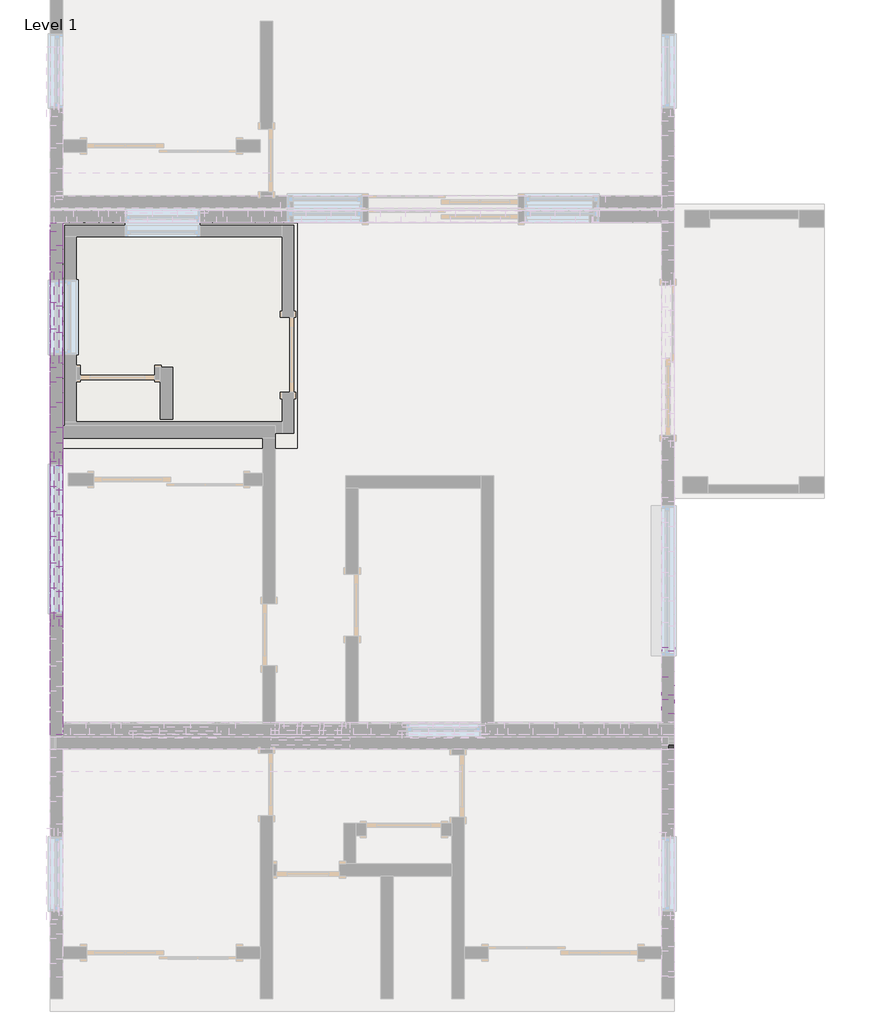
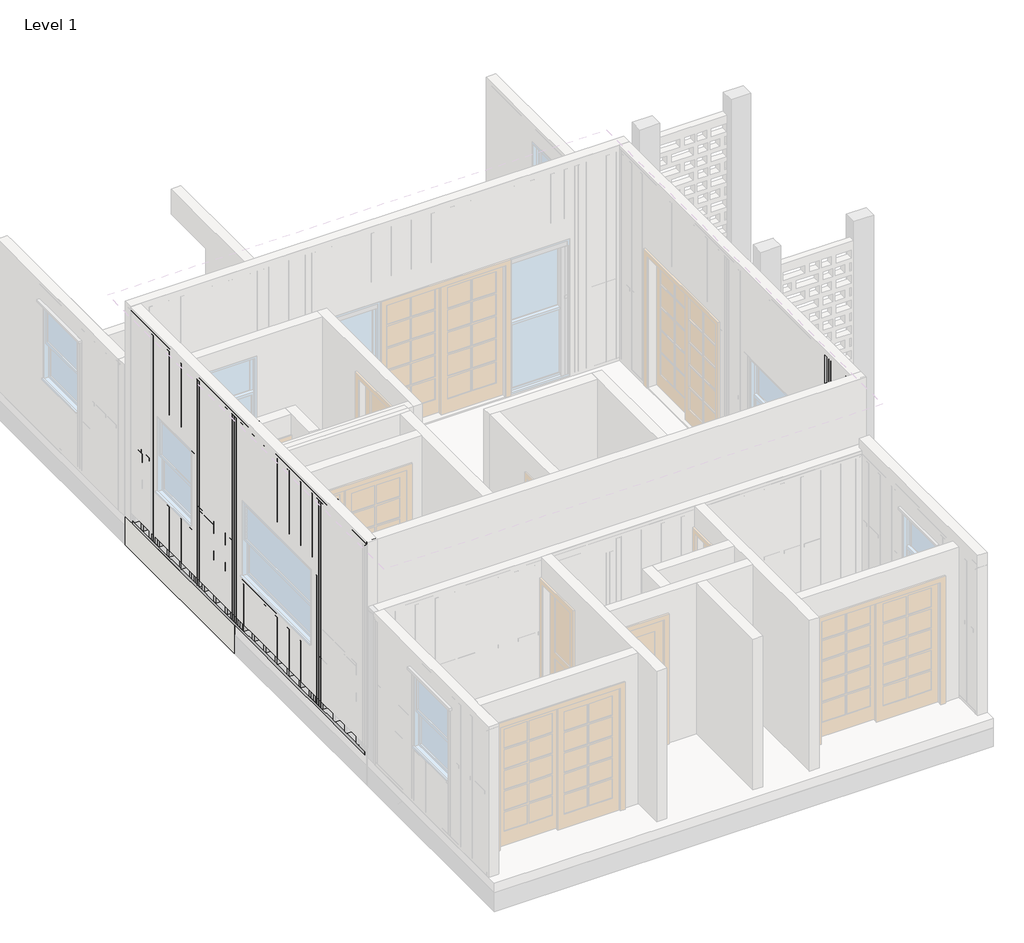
# One storey, part 7 of 12: 102 beams, 1 slab.
"""IFC4 building model written with IfcOpenShell, lengths in millimetres."""

from ifc_helpers import new_model, si_unit, frame, origin, origin_with_axes, place, context, project, spatial, polyline, outline, extrude, faceted_brep, transform, mapped, element, save
from components import beam_239daab2, beam_f281b755, beam_aa3e2137, beam_2eff0062, beam_94f9b516, beam_c16debae, beam_a6087a68, beam_9201261a, beam_f7cc44c7, beam_b7962ac8, beam_15472744, beam_b2f74068, beam_61d3dc7b, beam_e041d9c6, beam_07a85b6c, beam_0c8f00b2, beam_fbb855dd, beam_4a104cc5, beam_99146412, beam_57e885f1, beam_8e30b7c7, beam_f3d449ce, beam_9d6aa0d6, beam_a4d90c35, beam_cc9ad65c, beam_51b55d0f, beam_9a5d82eb, beam_c7850aeb, beam_50f049cc, beam_d29d678d, beam_b4771957, beam_a4c1aa83, beam_a83041ab, beam_e5826ba7, beam_6518eab1

model = new_model("IFC4")

# Units and contexts
model_context = context("Model", 3, world=origin())
ifc_project = project(units=[si_unit("LENGTHUNIT", "METRE", prefix="MILLI")], contexts=[model_context])

# Site, building, storey
site = spatial("IfcSite", under=ifc_project)
building = spatial("IfcBuilding", under=site)
storey = spatial("IfcBuildingStorey", under=building, Name="Level 1", Elevation=0.0)

# Beams
placement = place(None, origin())
element("IfcBeam", 1, ObjectType="Rectangular(Timber)-Beam : Timber_0' - 1 31/32\" x0' - 5 29/32\" _ContentGenerator", at=placement, inside=storey, context=model_context, shape_type="SweptSolid", body=[
    extrude(outline(polyline([(-25008.3813369, 3429.0), (-24957.5813369, 3378.2), (-24957.5813369, 0.0), (-25008.3813369, 0.0), (-25008.3813369, 3429.0)])), frame((-4062.0790766, 0.0, 0.0), z_axis=(1.0, 0.0, 0.0), x_axis=(0.0, 1.0, 0.0)), (0.0, 0.0, 1.0), 152.4),
])
element("IfcBeam", 2, ObjectType="Rectangular(Timber)-Beam : Timber_0' - 1 31/32\" x0' - 5 29/32\" _ContentGenerator", at=placement, inside=storey, context=model_context, shape_type="SweptSolid", body=[
    extrude(outline(polyline([(3431.656975, -3909.6740766), (3380.856975, -3960.4740766), (0.0, -3960.4740766), (0.0, -3909.6740766), (3431.656975, -3909.6740766)])), frame((0.0, -25160.7763369, 0.0), z_axis=(0.0, 1.0, 0.0), x_axis=(0.0, 0.0, 1.0)), (0.0, 0.0, 1.0), 152.4),
])
element("IfcBeam", 3, ObjectType="Rectangular(Timber)-Beam : Timber_0' - 1 31/32\" x0' - 5 29/32\" _ContentGenerator", at=placement, inside=storey, context=model_context, shape_type="SweptSolid", body=[
    extrude(outline(polyline([(-11529.6790766, -18963.1863369), (-11377.2790766, -18963.1863369), (-11377.2790766, -25109.9813369), (-11529.6790766, -25109.9813369), (-11529.6790766, -18963.1863369)])), origin_with_axes(), (0.0, 0.0, 1.0), 50.8),
])
element("IfcBeam", 4, ObjectType="Rectangular(Timber)-Beam : Timber_0' - 1 31/32\" x0' - 5 29/32\" _ContentGenerator", at=placement, inside=storey, context=model_context, shape_type="SweptSolid", body=[
    extrude(outline(polyline([(-25109.9813369, 3378.2), (-25160.7813369, 3429.0), (-18912.3863369, 3429.0), (-18963.1863369, 3378.2), (-25109.9813369, 3378.2)])), frame((-11529.6790766, 0.0, 0.0), z_axis=(1.0, 0.0, 0.0), x_axis=(0.0, 1.0, 0.0)), (0.0, 0.0, 1.0), 152.4),
])
beam_shape = beam_239daab2(model_context)
element("IfcBeam", 5, ObjectType="Rectangular(Timber)-Beam : Timber_0' - 1 31/32\" x0' - 5 29/32\" _ContentGenerator", at=placement, inside=storey, context=model_context, shape_type="MappedRepresentation", body=[
    mapped(beam_shape, transform((-3985.8790766, -24540.8509408, 1314.45), x_axis=(0.0, -1.0000000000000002, 0.0), y_axis=(0.0, 0.0, -1.0000000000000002), z_axis=(1.0000000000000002, 0.0, 0.0))),
])
beam_2_shape = beam_f281b755(model_context)
element("IfcBeam", 6, ObjectType="Rectangular(Timber)-Beam : Timber_0' - 1 31/32\" x0' - 5 29/32\" _ContentGenerator", at=placement, inside=storey, context=model_context, shape_type="MappedRepresentation", body=[
    mapped(beam_2_shape, transform((-11453.4790766, -21534.9313369, 1314.45), x_axis=(0.0, -1.0000000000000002, 0.0), y_axis=(0.0, 0.0, -1.0000000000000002), z_axis=(1.0000000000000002, 0.0, 0.0))),
])
beam_3_shape = beam_aa3e2137(model_context)
element("IfcBeam", 7, ObjectType="Rectangular(Timber)-Beam : Timber_0' - 1 31/32\" x0' - 5 29/32\" _ContentGenerator", at=placement, inside=storey, context=model_context, shape_type="MappedRepresentation", body=[
    mapped(beam_3_shape, transform((-11453.4790766, -20728.4863369, 1314.45), x_axis=(0.0, -1.0000000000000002, 0.0), y_axis=(0.0, 0.0, -1.0000000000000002), z_axis=(1.0000000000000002, 0.0, 0.0))),
])
beam_4_shape = beam_2eff0062(model_context)
element("IfcBeam", 8, ObjectType="Rectangular(Timber)-Beam : Timber_0' - 1 31/32\" x0' - 5 29/32\" _ContentGenerator", at=placement, inside=storey, context=model_context, shape_type="MappedRepresentation", body=[
    mapped(beam_4_shape, transform((-11453.4790766, -19325.1413369, 1314.45), x_axis=(0.0, -1.0000000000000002, 0.0), y_axis=(0.0, 0.0, -1.0000000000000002), z_axis=(1.0000000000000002, 0.0, 0.0))),
])
beam_5_shape = beam_94f9b516(model_context)
element("IfcBeam", 9, ObjectType="Rectangular(Timber)-Beam : Timber_0' - 1 31/32\" x0' - 5 29/32\" _ContentGenerator", at=placement, inside=storey, context=model_context, shape_type="MappedRepresentation", body=[
    mapped(beam_5_shape, transform((-11453.4790766, -21884.1863369, 431.8), x_axis=(0.0, 0.0, 1.0), y_axis=(0.0, -1.0, 0.0), z_axis=(1.0, 0.0, 0.0))),
])
element("IfcBeam", 10, ObjectType="Rectangular(Timber)-Beam : Timber_0' - 1 31/32\" x0' - 5 29/32\" _ContentGenerator", at=placement, inside=storey, context=model_context, shape_type="MappedRepresentation", body=[
    mapped(beam_5_shape, transform((-11453.4790766, -23662.1863369, 431.8), x_axis=(0.0, 0.0, 1.0), y_axis=(0.0, -1.0, 0.0), z_axis=(1.0, 0.0, 0.0))),
])
element("IfcBeam", 11, ObjectType="Rectangular(Timber)-Beam : Timber_0' - 1 31/32\" x0' - 5 29/32\" _ContentGenerator", at=placement, inside=storey, context=model_context, shape_type="MappedRepresentation", body=[
    mapped(beam_5_shape, transform((-11453.4790766, -22459.9096702, 431.8), x_axis=(0.0, 0.0, 1.0), y_axis=(0.0, -1.0, 0.0), z_axis=(1.0, 0.0, 0.0))),
])
element("IfcBeam", 12, ObjectType="Rectangular(Timber)-Beam : Timber_0' - 1 31/32\" x0' - 5 29/32\" _ContentGenerator", at=placement, inside=storey, context=model_context, shape_type="MappedRepresentation", body=[
    mapped(beam_5_shape, transform((-11453.4790766, -23086.4430036, 431.8), x_axis=(0.0, 0.0, 1.0), y_axis=(0.0, -1.0, 0.0), z_axis=(1.0, 0.0, 0.0))),
])
element("IfcBeam", 13, ObjectType="Rectangular(Timber)-Beam : Timber_0' - 1 31/32\" x0' - 5 29/32\" _ContentGenerator", at=placement, inside=storey, context=model_context, shape_type="MappedRepresentation", body=[
    mapped(beam_5_shape, transform((-11453.4790766, -22764.7096702, 431.8), x_axis=(0.0, 0.0, 1.0), y_axis=(0.0, -1.0, 0.0), z_axis=(1.0, 0.0, 0.0))),
])
element("IfcBeam", 14, ObjectType="Rectangular(Timber)-Beam : Timber_0' - 1 31/32\" x0' - 5 29/32\" _ContentGenerator", at=placement, inside=storey, context=model_context, shape_type="MappedRepresentation", body=[
    mapped(beam_5_shape, transform((-11453.4790766, -23391.2430036, 431.8), x_axis=(0.0, 0.0, 1.0), y_axis=(0.0, -1.0, 0.0), z_axis=(1.0, 0.0, 0.0))),
])
element("IfcBeam", 15, ObjectType="Rectangular(Timber)-Beam : Timber_0' - 1 31/32\" x0' - 5 29/32\" _ContentGenerator", at=placement, inside=storey, context=model_context, shape_type="MappedRepresentation", body=[
    mapped(beam_5_shape, transform((-11453.4790766, -22155.1096702, 431.8), x_axis=(0.0, 0.0, 1.0), y_axis=(0.0, -1.0, 0.0), z_axis=(1.0, 0.0, 0.0))),
])
element("IfcBeam", 16, ObjectType="Rectangular(Timber)-Beam : Timber_0' - 1 31/32\" x0' - 5 29/32\" _ContentGenerator", at=placement, inside=storey, context=model_context, shape_type="MappedRepresentation", body=[
    mapped(beam_5_shape, transform((-3996.4417141, -24170.1078952, 431.8), x_axis=(0.0, 0.0, 1.0), y_axis=(0.0, -1.0, 0.0), z_axis=(1.0, 0.0, 0.0))),
])
beam_6_shape = beam_c16debae(model_context)
element("IfcBeam", 17, ObjectType="Rectangular(Timber)-Beam : Timber_0' - 1 31/32\" x0' - 5 29/32\" _ContentGenerator", at=placement, inside=storey, context=model_context, shape_type="MappedRepresentation", body=[
    mapped(beam_6_shape, transform((-11453.4790766, -20068.0763369, 889.0), x_axis=(0.0, -1.0000000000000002, 0.0), y_axis=(0.0, 0.0, -1.0000000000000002), z_axis=(1.0000000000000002, 0.0, 0.0))),
])
beam_7_shape = beam_a6087a68(model_context)
element("IfcBeam", 18, ObjectType="Rectangular(Timber)-Beam : Timber_0' - 1 31/32\" x0' - 5 29/32\" _ContentGenerator", at=placement, inside=storey, context=model_context, shape_type="MappedRepresentation", body=[
    mapped(beam_7_shape, transform((-11453.4790766, -20982.4763369, 1314.45), x_axis=(0.0, -1.0000000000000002, 0.0), y_axis=(0.0, 0.0, -1.0000000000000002), z_axis=(1.0000000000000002, 0.0, 0.0))),
])
element("IfcBeam", 19, ObjectType="Rectangular(Timber)-Beam : Timber_0' - 1 31/32\" x0' - 5 29/32\" _ContentGenerator", at=placement, inside=storey, context=model_context, shape_type="MappedRepresentation", body=[
    mapped(beam_7_shape, transform((-11453.4790766, -21287.2763369, 1314.45), x_axis=(0.0, -1.0000000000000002, 0.0), y_axis=(0.0, 0.0, -1.0000000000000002), z_axis=(1.0000000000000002, 0.0, 0.0))),
])
beam_8_shape = beam_9201261a(model_context)
element("IfcBeam", 20, ObjectType="Rectangular(Timber)-Beam : Timber_0' - 1 31/32\" x0' - 5 29/32\" _ContentGenerator", at=placement, inside=storey, context=model_context, shape_type="MappedRepresentation", body=[
    mapped(beam_8_shape, transform((-3985.8790766, -24817.8813369, 1314.45), x_axis=(0.0, -1.0000000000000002, 0.0), y_axis=(0.0, 0.0, -1.0000000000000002), z_axis=(1.0000000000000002, 0.0, 0.0))),
])
beam_9_shape = beam_f7cc44c7(model_context)
element("IfcBeam", 21, ObjectType="Rectangular(Timber)-Beam : Timber_0' - 1 31/32\" x0' - 5 29/32\" _ContentGenerator", at=placement, inside=storey, context=model_context, shape_type="MappedRepresentation", body=[
    mapped(beam_9_shape, transform((-11453.4790766, -22773.1763369, 889.0), x_axis=(0.0, -1.0000000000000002, 0.0), y_axis=(0.0, 0.0, -1.0000000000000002), z_axis=(1.0000000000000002, 0.0, 0.0))),
])
element("IfcBeam", 22, ObjectType="Rectangular(Timber)-Beam : Timber_0' - 1 31/32\" x0' - 5 29/32\" _ContentGenerator", at=placement, inside=storey, context=model_context, shape_type="MappedRepresentation", body=[
    mapped(beam_9_shape, transform((-11453.4790766, -22773.1763369, 838.2), x_axis=(0.0, -1.0000000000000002, 0.0), y_axis=(0.0, 0.0, -1.0000000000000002), z_axis=(1.0000000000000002, 0.0, 0.0))),
])
beam_10_shape = beam_b7962ac8(model_context)
element("IfcBeam", 23, ObjectType="Rectangular(Timber)-Beam : Timber_0' - 1 31/32\" x0' - 5 29/32\" _ContentGenerator", at=placement, inside=storey, context=model_context, shape_type="MappedRepresentation", body=[
    mapped(beam_10_shape, transform((-11453.4790766, -19636.2863369, 457.2), x_axis=(0.0, 0.0, 1.0), y_axis=(0.0, -1.0, 0.0), z_axis=(1.0, 0.0, 0.0))),
])
element("IfcBeam", 24, ObjectType="Rectangular(Timber)-Beam : Timber_0' - 1 31/32\" x0' - 5 29/32\" _ContentGenerator", at=placement, inside=storey, context=model_context, shape_type="MappedRepresentation", body=[
    mapped(beam_10_shape, transform((-11453.4790766, -20499.8863369, 457.2), x_axis=(0.0, 0.0, 1.0), y_axis=(0.0, -1.0, 0.0), z_axis=(1.0, 0.0, 0.0))),
])
element("IfcBeam", 25, ObjectType="Rectangular(Timber)-Beam : Timber_0' - 1 31/32\" x0' - 5 29/32\" _ContentGenerator", at=placement, inside=storey, context=model_context, shape_type="MappedRepresentation", body=[
    mapped(beam_10_shape, transform((-11453.4790766, -19907.2096702, 457.2), x_axis=(0.0, 0.0, 1.0), y_axis=(0.0, -1.0, 0.0), z_axis=(1.0, 0.0, 0.0))),
])
element("IfcBeam", 26, ObjectType="Rectangular(Timber)-Beam : Timber_0' - 1 31/32\" x0' - 5 29/32\" _ContentGenerator", at=placement, inside=storey, context=model_context, shape_type="MappedRepresentation", body=[
    mapped(beam_10_shape, transform((-11453.4790766, -20228.9430036, 457.2), x_axis=(0.0, 0.0, 1.0), y_axis=(0.0, -1.0, 0.0), z_axis=(1.0, 0.0, 0.0))),
])
beam_11_shape = beam_15472744(model_context)
element("IfcBeam", 27, ObjectType="Rectangular(Timber)-Beam : Timber_0' - 1 31/32\" x0' - 5 29/32\" _ContentGenerator", at=placement, inside=storey, context=model_context, shape_type="MappedRepresentation", body=[
    mapped(beam_11_shape, transform((-3985.8790766, -24932.1863369, 1715.8284875), x_axis=(0.0, 0.0, 1.0), y_axis=(0.0, -1.0, 0.0), z_axis=(1.0, 0.0, 0.0))),
])
element("IfcBeam", 28, ObjectType="Rectangular(Timber)-Beam : Timber_0' - 1 31/32\" x0' - 5 29/32\" _ContentGenerator", at=placement, inside=storey, context=model_context, shape_type="MappedRepresentation", body=[
    mapped(beam_11_shape, transform((-3985.8790766, -24703.5763369, 1715.8284875), x_axis=(0.0, 0.0, 1.0), y_axis=(0.0, -1.0, 0.0), z_axis=(1.0, 0.0, 0.0))),
])
element("IfcBeam", 29, ObjectType="Rectangular(Timber)-Beam : Timber_0' - 1 31/32\" x0' - 5 29/32\" _ContentGenerator", at=placement, inside=storey, context=model_context, shape_type="MappedRepresentation", body=[
    mapped(beam_11_shape, transform((-3985.8690766, -25084.5763369, 1715.8284875), x_axis=(0.0, 0.0, 1.0), y_axis=(1.0, 0.0, 0.0), z_axis=(0.0, 1.0, 0.0))),
])
element("IfcBeam", 30, ObjectType="Rectangular(Timber)-Beam : Timber_0' - 1 31/32\" x0' - 5 29/32\" _ContentGenerator", at=placement, inside=storey, context=model_context, shape_type="MappedRepresentation", body=[
    mapped(beam_11_shape, transform((-3986.6694134, -24375.71672, 1715.8284875), x_axis=(0.0, 0.0, 1.0), y_axis=(0.0, -1.0, 0.0), z_axis=(1.0, 0.0, 0.0))),
])
element("IfcBeam", 31, ObjectType="Rectangular(Timber)-Beam : Timber_0' - 1 31/32\" x0' - 5 29/32\" _ContentGenerator", at=placement, inside=storey, context=model_context, shape_type="MappedRepresentation", body=[
    mapped(beam_11_shape, transform((-3985.8790766, -24428.9255447, 1715.8284875), x_axis=(0.0, 0.0, 1.0), y_axis=(0.0, -1.0, 0.0), z_axis=(1.0, 0.0, 0.0))),
])
element("IfcBeam", 32, ObjectType="Rectangular(Timber)-Beam : Timber_0' - 1 31/32\" x0' - 5 29/32\" _ContentGenerator", at=placement, inside=storey, context=model_context, shape_type="MappedRepresentation", body=[
    mapped(beam_11_shape, transform((-3985.8790766, -24482.1343695, 1715.8284875), x_axis=(0.0, 0.0, 1.0), y_axis=(0.0, -1.0, 0.0), z_axis=(1.0, 0.0, 0.0))),
])
beam_12_shape = beam_b2f74068(model_context)
element("IfcBeam", 33, ObjectType="Rectangular(Timber)-Beam : Timber_0' - 1 31/32\" x0' - 5 29/32\" _ContentGenerator", at=placement, inside=storey, context=model_context, shape_type="MappedRepresentation", body=[
    mapped(beam_12_shape, transform((-11453.4790766, -19217.1763369, 1714.5), x_axis=(0.0, 0.0, 1.0), y_axis=(0.0, -1.0, 0.0), z_axis=(1.0, 0.0, 0.0))),
])
element("IfcBeam", 34, ObjectType="Rectangular(Timber)-Beam : Timber_0' - 1 31/32\" x0' - 5 29/32\" _ContentGenerator", at=placement, inside=storey, context=model_context, shape_type="MappedRepresentation", body=[
    mapped(beam_12_shape, transform((-11453.4790766, -20830.0763369, 1714.5), x_axis=(0.0, 0.0, 1.0), y_axis=(0.0, -1.0, 0.0), z_axis=(1.0, 0.0, 0.0))),
])
element("IfcBeam", 35, ObjectType="Rectangular(Timber)-Beam : Timber_0' - 1 31/32\" x0' - 5 29/32\" _ContentGenerator", at=placement, inside=storey, context=model_context, shape_type="MappedRepresentation", body=[
    mapped(beam_12_shape, transform((-11453.4790766, -21134.8763369, 1714.5), x_axis=(0.0, 0.0, 1.0), y_axis=(0.0, -1.0, 0.0), z_axis=(1.0, 0.0, 0.0))),
])
element("IfcBeam", 36, ObjectType="Rectangular(Timber)-Beam : Timber_0' - 1 31/32\" x0' - 5 29/32\" _ContentGenerator", at=placement, inside=storey, context=model_context, shape_type="MappedRepresentation", body=[
    mapped(beam_12_shape, transform((-11453.4790766, -21439.6763369, 1714.5), x_axis=(0.0, 0.0, 1.0), y_axis=(0.0, -1.0, 0.0), z_axis=(1.0, 0.0, 0.0))),
])
element("IfcBeam", 37, ObjectType="Rectangular(Timber)-Beam : Timber_0' - 1 31/32\" x0' - 5 29/32\" _ContentGenerator", at=placement, inside=storey, context=model_context, shape_type="MappedRepresentation", body=[
    mapped(beam_12_shape, transform((-11453.4790766, -23966.9863369, 1714.5), x_axis=(0.0, 0.0, 1.0), y_axis=(0.0, -1.0, 0.0), z_axis=(1.0, 0.0, 0.0))),
])
element("IfcBeam", 38, ObjectType="Rectangular(Timber)-Beam : Timber_0' - 1 31/32\" x0' - 5 29/32\" _ContentGenerator", at=placement, inside=storey, context=model_context, shape_type="MappedRepresentation", body=[
    mapped(beam_12_shape, transform((-11453.4790766, -19483.8863369, 1714.5), x_axis=(0.0, 0.0, 1.0), y_axis=(0.0, -1.0, 0.0), z_axis=(1.0, 0.0, 0.0))),
])
element("IfcBeam", 39, ObjectType="Rectangular(Timber)-Beam : Timber_0' - 1 31/32\" x0' - 5 29/32\" _ContentGenerator", at=placement, inside=storey, context=model_context, shape_type="MappedRepresentation", body=[
    mapped(beam_12_shape, transform((-11453.4790766, -20652.2963369, 1714.5), x_axis=(0.0, 0.0, 1.0), y_axis=(0.0, -1.0, 0.0), z_axis=(1.0, 0.0, 0.0))),
])
element("IfcBeam", 40, ObjectType="Rectangular(Timber)-Beam : Timber_0' - 1 31/32\" x0' - 5 29/32\" _ContentGenerator", at=placement, inside=storey, context=model_context, shape_type="MappedRepresentation", body=[
    mapped(beam_12_shape, transform((-11453.4790766, -23865.3863369, 1714.5), x_axis=(0.0, 0.0, 1.0), y_axis=(0.0, -1.0, 0.0), z_axis=(1.0, 0.0, 0.0))),
])
element("IfcBeam", 41, ObjectType="Rectangular(Timber)-Beam : Timber_0' - 1 31/32\" x0' - 5 29/32\" _ContentGenerator", at=placement, inside=storey, context=model_context, shape_type="MappedRepresentation", body=[
    mapped(beam_12_shape, transform((-11453.4790766, -23916.1863369, 1714.5), x_axis=(0.0, 0.0, 1.0), y_axis=(0.0, -1.0, 0.0), z_axis=(1.0, 0.0, 0.0))),
])
element("IfcBeam", 42, ObjectType="Rectangular(Timber)-Beam : Timber_0' - 1 31/32\" x0' - 5 29/32\" _ContentGenerator", at=placement, inside=storey, context=model_context, shape_type="MappedRepresentation", body=[
    mapped(beam_12_shape, transform((-11453.4790766, -21680.9863369, 1714.5), x_axis=(0.0, 0.0, 1.0), y_axis=(0.0, -1.0, 0.0), z_axis=(1.0, 0.0, 0.0))),
])
element("IfcBeam", 43, ObjectType="Rectangular(Timber)-Beam : Timber_0' - 1 31/32\" x0' - 5 29/32\" _ContentGenerator", at=placement, inside=storey, context=model_context, shape_type="MappedRepresentation", body=[
    mapped(beam_12_shape, transform((-11453.4790766, -21630.1863369, 1714.5), x_axis=(0.0, 0.0, 1.0), y_axis=(0.0, -1.0, 0.0), z_axis=(1.0, 0.0, 0.0))),
])
element("IfcBeam", 44, ObjectType="Rectangular(Timber)-Beam : Timber_0' - 1 31/32\" x0' - 5 29/32\" _ContentGenerator", at=placement, inside=storey, context=model_context, shape_type="MappedRepresentation", body=[
    mapped(beam_12_shape, transform((-11453.4790766, -21579.3863369, 1714.5), x_axis=(0.0, 0.0, 1.0), y_axis=(0.0, -1.0, 0.0), z_axis=(1.0, 0.0, 0.0))),
])
element("IfcBeam", 45, ObjectType="Rectangular(Timber)-Beam : Timber_0' - 1 31/32\" x0' - 5 29/32\" _ContentGenerator", at=placement, inside=storey, context=model_context, shape_type="MappedRepresentation", body=[
    mapped(beam_12_shape, transform((-11453.4790766, -20703.1063369, 1714.5), x_axis=(0.0, 0.0, 1.0), y_axis=(0.0, -1.0, 0.0), z_axis=(1.0, 0.0, 0.0))),
])
beam_13_shape = beam_61d3dc7b(model_context)
element("IfcBeam", 46, ObjectType="Rectangular(Timber)-Beam : Timber_0' - 1 31/32\" x0' - 5 29/32\" _ContentGenerator", at=placement, inside=storey, context=model_context, shape_type="MappedRepresentation", body=[
    mapped(beam_13_shape, transform((-11453.4790766, -22036.5763369, 3454.4), x_axis=(0.0, -1.0000000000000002, 0.0), y_axis=(0.0, 0.0, -1.0000000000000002), z_axis=(1.0000000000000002, 0.0, 0.0))),
])
beam_14_shape = beam_e041d9c6(model_context)
element("IfcBeam", 47, ObjectType="Rectangular(Timber)-Beam : Timber_0' - 1 31/32\" x0' - 5 29/32\" _ContentGenerator", at=placement, inside=storey, context=model_context, shape_type="MappedRepresentation", body=[
    mapped(beam_14_shape, transform((-11453.4790766, -19102.8813369, 1314.45), x_axis=(0.0, -1.0000000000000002, 0.0), y_axis=(0.0, 0.0, -1.0000000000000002), z_axis=(1.0000000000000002, 0.0, 0.0))),
])
beam_15_shape = beam_07a85b6c(model_context)
element("IfcBeam", 48, ObjectType="Rectangular(Timber)-Beam : Timber_0' - 1 31/32\" x0' - 5 29/32\" _ContentGenerator", at=placement, inside=storey, context=model_context, shape_type="MappedRepresentation", body=[
    mapped(beam_15_shape, transform((-11453.4790766, -19907.2096702, 2865.4375), x_axis=(0.0, 0.0, 1.0), y_axis=(0.0, -1.0, 0.0), z_axis=(1.0, 0.0, 0.0))),
])
element("IfcBeam", 49, ObjectType="Rectangular(Timber)-Beam : Timber_0' - 1 31/32\" x0' - 5 29/32\" _ContentGenerator", at=placement, inside=storey, context=model_context, shape_type="MappedRepresentation", body=[
    mapped(beam_15_shape, transform((-11453.4790766, -20228.9430036, 2865.4375), x_axis=(0.0, 0.0, 1.0), y_axis=(0.0, -1.0, 0.0), z_axis=(1.0, 0.0, 0.0))),
])
element("IfcBeam", 50, ObjectType="Rectangular(Timber)-Beam : Timber_0' - 1 31/32\" x0' - 5 29/32\" _ContentGenerator", at=placement, inside=storey, context=model_context, shape_type="MappedRepresentation", body=[
    mapped(beam_15_shape, transform((-11453.4790766, -22459.9096702, 2865.4375), x_axis=(0.0, 0.0, 1.0), y_axis=(0.0, -1.0, 0.0), z_axis=(1.0, 0.0, 0.0))),
])
element("IfcBeam", 51, ObjectType="Rectangular(Timber)-Beam : Timber_0' - 1 31/32\" x0' - 5 29/32\" _ContentGenerator", at=placement, inside=storey, context=model_context, shape_type="MappedRepresentation", body=[
    mapped(beam_15_shape, transform((-11453.4790766, -23086.4430036, 2865.4375), x_axis=(0.0, 0.0, 1.0), y_axis=(0.0, -1.0, 0.0), z_axis=(1.0, 0.0, 0.0))),
])
element("IfcBeam", 52, ObjectType="Rectangular(Timber)-Beam : Timber_0' - 1 31/32\" x0' - 5 29/32\" _ContentGenerator", at=placement, inside=storey, context=model_context, shape_type="MappedRepresentation", body=[
    mapped(beam_15_shape, transform((-11453.4790766, -22155.1096702, 2865.4375), x_axis=(0.0, 0.0, 1.0), y_axis=(0.0, -1.0, 0.0), z_axis=(1.0, 0.0, 0.0))),
])
element("IfcBeam", 53, ObjectType="Rectangular(Timber)-Beam : Timber_0' - 1 31/32\" x0' - 5 29/32\" _ContentGenerator", at=placement, inside=storey, context=model_context, shape_type="MappedRepresentation", body=[
    mapped(beam_15_shape, transform((-11453.4790766, -22764.7096702, 2865.4375), x_axis=(0.0, 0.0, 1.0), y_axis=(0.0, -1.0, 0.0), z_axis=(1.0, 0.0, 0.0))),
])
element("IfcBeam", 54, ObjectType="Rectangular(Timber)-Beam : Timber_0' - 1 31/32\" x0' - 5 29/32\" _ContentGenerator", at=placement, inside=storey, context=model_context, shape_type="MappedRepresentation", body=[
    mapped(beam_15_shape, transform((-11453.4790766, -23391.2430036, 2865.4375), x_axis=(0.0, 0.0, 1.0), y_axis=(0.0, -1.0, 0.0), z_axis=(1.0, 0.0, 0.0))),
])
element("IfcBeam", 55, ObjectType="Rectangular(Timber)-Beam : Timber_0' - 1 31/32\" x0' - 5 29/32\" _ContentGenerator", at=placement, inside=storey, context=model_context, shape_type="MappedRepresentation", body=[
    mapped(beam_15_shape, transform((-11453.4790766, -23696.0430036, 2865.4375), x_axis=(0.0, 0.0, 1.0), y_axis=(0.0, -1.0, 0.0), z_axis=(1.0, 0.0, 0.0))),
])
element("IfcBeam", 56, ObjectType="Rectangular(Timber)-Beam : Timber_0' - 1 31/32\" x0' - 5 29/32\" _ContentGenerator", at=placement, inside=storey, context=model_context, shape_type="MappedRepresentation", body=[
    mapped(beam_15_shape, transform((-11453.4790766, -21850.3096702, 2865.4375), x_axis=(0.0, 0.0, 1.0), y_axis=(0.0, -1.0, 0.0), z_axis=(1.0, 0.0, 0.0))),
])
beam_16_shape = beam_0c8f00b2(model_context)
element("IfcBeam", 57, ObjectType="Rectangular(Timber)-Beam : Timber_0' - 1 31/32\" x0' - 5 29/32\" _ContentGenerator", at=placement, inside=storey, context=model_context, shape_type="MappedRepresentation", body=[
    mapped(beam_16_shape, transform((-3982.8612094, -24119.4087486, 2874.708186), x_axis=(0.0, 0.0, 1.0), y_axis=(0.0, -1.0, 0.0), z_axis=(1.0, 0.0, 0.0))),
])
beam_17_shape = beam_fbb855dd(model_context)
element("IfcBeam", 58, ObjectType="Rectangular(Timber)-Beam : Timber_0' - 1 31/32\" x0' - 5 29/32\" _ContentGenerator", at=placement, inside=storey, context=model_context, shape_type="MappedRepresentation", body=[
    mapped(beam_17_shape, transform((-3985.8790766, -24220.9078952, 1095.375), x_axis=(0.0, 0.0, 1.0), y_axis=(0.0, -1.0, 0.0), z_axis=(1.0, 0.0, 0.0))),
])
element("IfcBeam", 59, ObjectType="Rectangular(Timber)-Beam : Timber_0' - 1 31/32\" x0' - 5 29/32\" _ContentGenerator", at=placement, inside=storey, context=model_context, shape_type="MappedRepresentation", body=[
    mapped(beam_17_shape, transform((-3985.8790766, -24271.7078952, 1095.375), x_axis=(0.0, 0.0, 1.0), y_axis=(0.0, -1.0, 0.0), z_axis=(1.0, 0.0, 0.0))),
])
element("IfcBeam", 60, ObjectType="Rectangular(Timber)-Beam : Timber_0' - 1 31/32\" x0' - 5 29/32\" _ContentGenerator", at=placement, inside=storey, context=model_context, shape_type="MappedRepresentation", body=[
    mapped(beam_17_shape, transform((-3985.8790766, -24324.91672, 1095.375), x_axis=(0.0, 0.0, 1.0), y_axis=(0.0, -1.0, 0.0), z_axis=(1.0, 0.0, 0.0))),
])
beam_18_shape = beam_4a104cc5(model_context)
element("IfcBeam", 61, ObjectType="Rectangular(Timber)-Beam : Timber_0' - 1 31/32\" x0' - 5 29/32\" _ContentGenerator", at=placement, inside=storey, context=model_context, shape_type="MappedRepresentation", body=[
    mapped(beam_18_shape, transform((-11453.4790766, -19585.4863369, 1090.6125), x_axis=(0.0, 0.0, 1.0), y_axis=(0.0, -1.0, 0.0), z_axis=(1.0, 0.0, 0.0))),
])
element("IfcBeam", 62, ObjectType="Rectangular(Timber)-Beam : Timber_0' - 1 31/32\" x0' - 5 29/32\" _ContentGenerator", at=placement, inside=storey, context=model_context, shape_type="MappedRepresentation", body=[
    mapped(beam_18_shape, transform((-11453.4790766, -20550.6863369, 1090.6125), x_axis=(0.0, 0.0, 1.0), y_axis=(0.0, -1.0, 0.0), z_axis=(1.0, 0.0, 0.0))),
])
element("IfcBeam", 63, ObjectType="Rectangular(Timber)-Beam : Timber_0' - 1 31/32\" x0' - 5 29/32\" _ContentGenerator", at=placement, inside=storey, context=model_context, shape_type="MappedRepresentation", body=[
    mapped(beam_18_shape, transform((-11453.4790766, -21833.3863369, 1090.6125), x_axis=(0.0, 0.0, 1.0), y_axis=(0.0, -1.0, 0.0), z_axis=(1.0, 0.0, 0.0))),
])
element("IfcBeam", 64, ObjectType="Rectangular(Timber)-Beam : Timber_0' - 1 31/32\" x0' - 5 29/32\" _ContentGenerator", at=placement, inside=storey, context=model_context, shape_type="MappedRepresentation", body=[
    mapped(beam_18_shape, transform((-11453.4790766, -23712.9863369, 1090.6125), x_axis=(0.0, 0.0, 1.0), y_axis=(0.0, -1.0, 0.0), z_axis=(1.0, 0.0, 0.0))),
])
element("IfcBeam", 65, ObjectType="Rectangular(Timber)-Beam : Timber_0' - 1 31/32\" x0' - 5 29/32\" _ContentGenerator", at=placement, inside=storey, context=model_context, shape_type="MappedRepresentation", body=[
    mapped(beam_18_shape, transform((-11453.4790766, -21782.5863369, 1090.6125), x_axis=(0.0, 0.0, 1.0), y_axis=(0.0, -1.0, 0.0), z_axis=(1.0, 0.0, 0.0))),
])
element("IfcBeam", 66, ObjectType="Rectangular(Timber)-Beam : Timber_0' - 1 31/32\" x0' - 5 29/32\" _ContentGenerator", at=placement, inside=storey, context=model_context, shape_type="MappedRepresentation", body=[
    mapped(beam_18_shape, transform((-11453.4790766, -23763.7863369, 1090.6125), x_axis=(0.0, 0.0, 1.0), y_axis=(0.0, -1.0, 0.0), z_axis=(1.0, 0.0, 0.0))),
])
element("IfcBeam", 67, ObjectType="Rectangular(Timber)-Beam : Timber_0' - 1 31/32\" x0' - 5 29/32\" _ContentGenerator", at=placement, inside=storey, context=model_context, shape_type="MappedRepresentation", body=[
    mapped(beam_18_shape, transform((-11453.4790766, -23814.5863369, 1090.6125), x_axis=(0.0, 0.0, 1.0), y_axis=(0.0, -1.0, 0.0), z_axis=(1.0, 0.0, 0.0))),
])
element("IfcBeam", 68, ObjectType="Rectangular(Timber)-Beam : Timber_0' - 1 31/32\" x0' - 5 29/32\" _ContentGenerator", at=placement, inside=storey, context=model_context, shape_type="MappedRepresentation", body=[
    mapped(beam_18_shape, transform((-11453.4790766, -21731.7863369, 1090.6125), x_axis=(0.0, 0.0, 1.0), y_axis=(0.0, -1.0, 0.0), z_axis=(1.0, 0.0, 0.0))),
])
element("IfcBeam", 69, ObjectType="Rectangular(Timber)-Beam : Timber_0' - 1 31/32\" x0' - 5 29/32\" _ContentGenerator", at=placement, inside=storey, context=model_context, shape_type="MappedRepresentation", body=[
    mapped(beam_18_shape, transform((-11453.4790766, -20601.4863369, 1090.6125), x_axis=(0.0, 0.0, 1.0), y_axis=(0.0, -1.0, 0.0), z_axis=(1.0, 0.0, 0.0))),
])
beam_19_shape = beam_99146412(model_context)
element("IfcBeam", 70, ObjectType="WallPlates : 6\" x 3\"", at=placement, inside=storey, context=model_context, shape_type="MappedRepresentation", body=[
    mapped(beam_19_shape, transform((-11494.7540766, -21534.9313369, 793.75), x_axis=(0.0, -1.0000000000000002, 0.0), y_axis=(0.0, 0.0, -1.0000000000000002), z_axis=(1.0000000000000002, 0.0, 0.0))),
])
beam_20_shape = beam_57e885f1(model_context)
element("IfcBeam", 71, ObjectType="WallPlates : 6\" x 3\"", at=placement, inside=storey, context=model_context, shape_type="MappedRepresentation", body=[
    mapped(beam_20_shape, transform((-11494.7540766, -20362.2980036, 793.75), x_axis=(0.0, -1.0000000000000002, 0.0), y_axis=(0.0, 0.0, -1.0000000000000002), z_axis=(1.0000000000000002, 0.0, 0.0))),
])
beam_21_shape = beam_8e30b7c7(model_context)
element("IfcBeam", 72, ObjectType="WallPlates : 6\" x 3\"", at=placement, inside=storey, context=model_context, shape_type="MappedRepresentation", body=[
    mapped(beam_21_shape, transform((-11494.7540766, -21968.8480036, 742.95), x_axis=(0.0, -1.0000000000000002, 0.0), y_axis=(0.0, 0.0, -1.0000000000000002), z_axis=(1.0000000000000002, 0.0, 0.0))),
])
beam_22_shape = beam_f3d449ce(model_context)
element("IfcBeam", 73, ObjectType="WallPlates : 6\" x 3\"", at=placement, inside=storey, context=model_context, shape_type="MappedRepresentation", body=[
    mapped(beam_22_shape, transform((-11494.7540766, -23577.5146702, 742.95), x_axis=(0.0, -1.0000000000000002, 0.0), y_axis=(0.0, 0.0, -1.0000000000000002), z_axis=(1.0000000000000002, 0.0, 0.0))),
])
beam_23_shape = beam_9d6aa0d6(model_context)
element("IfcBeam", 74, ObjectType="WallPlates : 6\" x 3\"", at=placement, inside=storey, context=model_context, shape_type="MappedRepresentation", body=[
    mapped(beam_23_shape, transform((-3944.6040766, -25973.5763369, 1219.2), x_axis=(0.0, 1.0000000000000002, 0.0), y_axis=(0.0, 0.0, -1.0000000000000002), z_axis=(-1.0000000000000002, 0.0, 0.0))),
])
element("IfcBeam", 75, ObjectType="WallPlates : 6\" x 3\"", at=placement, inside=storey, context=model_context, shape_type="MappedRepresentation", body=[
    mapped(beam_23_shape, transform((-3944.6040766, -25668.7763369, 1219.2), x_axis=(0.0, 1.0000000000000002, 0.0), y_axis=(0.0, 0.0, -1.0000000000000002), z_axis=(-1.0000000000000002, 0.0, 0.0))),
])
element("IfcBeam", 76, ObjectType="WallPlates : 6\" x 3\"", at=placement, inside=storey, context=model_context, shape_type="MappedRepresentation", body=[
    mapped(beam_23_shape, transform((-3944.6040766, -25973.5763369, 780.7943138), x_axis=(0.0, 1.0000000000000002, 0.0), y_axis=(0.0, 0.0, -1.0000000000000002), z_axis=(-1.0000000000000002, 0.0, 0.0))),
])
element("IfcBeam", 77, ObjectType="WallPlates : 6\" x 3\"", at=placement, inside=storey, context=model_context, shape_type="MappedRepresentation", body=[
    mapped(beam_23_shape, transform((-3944.6040766, -25668.7763369, 780.7943138), x_axis=(0.0, 1.0000000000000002, 0.0), y_axis=(0.0, 0.0, -1.0000000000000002), z_axis=(-1.0000000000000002, 0.0, 0.0))),
])
element("IfcBeam", 78, ObjectType="WallPlates : 6\" x 3\"", at=placement, inside=storey, context=model_context, shape_type="MappedRepresentation", body=[
    mapped(beam_23_shape, transform((-11494.7540766, -20957.0763369, 793.75), x_axis=(0.0, -1.0000000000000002, 0.0), y_axis=(0.0, 0.0, -1.0000000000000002), z_axis=(1.0000000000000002, 0.0, 0.0))),
])
element("IfcBeam", 79, ObjectType="WallPlates : 6\" x 3\"", at=placement, inside=storey, context=model_context, shape_type="MappedRepresentation", body=[
    mapped(beam_23_shape, transform((-11494.7540766, -21261.8763369, 793.75), x_axis=(0.0, -1.0000000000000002, 0.0), y_axis=(0.0, 0.0, -1.0000000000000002), z_axis=(1.0000000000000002, 0.0, 0.0))),
])
element("IfcBeam", 80, ObjectType="WallPlates : 6\" x 3\"", at=placement, inside=storey, context=model_context, shape_type="MappedRepresentation", body=[
    mapped(beam_23_shape, transform((-11494.7540766, -22586.9096702, 742.95), x_axis=(0.0, -1.0000000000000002, 0.0), y_axis=(0.0, 0.0, -1.0000000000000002), z_axis=(1.0000000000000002, 0.0, 0.0))),
])
element("IfcBeam", 81, ObjectType="WallPlates : 6\" x 3\"", at=placement, inside=storey, context=model_context, shape_type="MappedRepresentation", body=[
    mapped(beam_23_shape, transform((-11494.7540766, -23213.4430036, 742.95), x_axis=(0.0, -1.0000000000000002, 0.0), y_axis=(0.0, 0.0, -1.0000000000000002), z_axis=(1.0000000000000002, 0.0, 0.0))),
])
beam_24_shape = beam_a4d90c35(model_context)
element("IfcBeam", 82, ObjectType="WallPlates : 6\" x 3\"", at=placement, inside=storey, context=model_context, shape_type="MappedRepresentation", body=[
    mapped(beam_24_shape, transform((-11494.7540766, -20982.4763369, 1219.2), x_axis=(0.0, -1.0000000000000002, 0.0), y_axis=(0.0, 0.0, -1.0000000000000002), z_axis=(1.0000000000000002, 0.0, 0.0))),
])
element("IfcBeam", 83, ObjectType="WallPlates : 6\" x 3\"", at=placement, inside=storey, context=model_context, shape_type="MappedRepresentation", body=[
    mapped(beam_24_shape, transform((-11494.7540766, -21287.2763369, 1219.2), x_axis=(0.0, -1.0000000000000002, 0.0), y_axis=(0.0, 0.0, -1.0000000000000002), z_axis=(1.0000000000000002, 0.0, 0.0))),
])
element("IfcBeam", 84, ObjectType="WallPlates : 6\" x 3\"", at=placement, inside=storey, context=model_context, shape_type="MappedRepresentation", body=[
    mapped(beam_24_shape, transform((-11494.7540766, -22307.5096702, 742.95), x_axis=(0.0, -1.0000000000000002, 0.0), y_axis=(0.0, 0.0, -1.0000000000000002), z_axis=(1.0000000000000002, 0.0, 0.0))),
])
beam_25_shape = beam_cc9ad65c(model_context)
element("IfcBeam", 85, ObjectType="WallPlates : 6\" x 3\"", at=placement, inside=storey, context=model_context, shape_type="MappedRepresentation", body=[
    mapped(beam_25_shape, transform((-3944.6040766, -25402.0713369, 1219.2), x_axis=(0.0, 1.0000000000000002, 0.0), y_axis=(0.0, 0.0, -1.0000000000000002), z_axis=(-1.0000000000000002, 0.0, 0.0))),
])
element("IfcBeam", 86, ObjectType="WallPlates : 6\" x 3\"", at=placement, inside=storey, context=model_context, shape_type="MappedRepresentation", body=[
    mapped(beam_25_shape, transform((-3944.6040766, -24792.4813369, 800.1), x_axis=(0.0, -1.0000000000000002, 0.0), y_axis=(0.0, 0.0, -1.0000000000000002), z_axis=(1.0000000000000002, 0.0, 0.0))),
])
element("IfcBeam", 87, ObjectType="WallPlates : 6\" x 3\"", at=placement, inside=storey, context=model_context, shape_type="MappedRepresentation", body=[
    mapped(beam_25_shape, transform((-3944.6040766, -25402.0713369, 780.7943138), x_axis=(0.0, 1.0000000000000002, 0.0), y_axis=(0.0, 0.0, -1.0000000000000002), z_axis=(-1.0000000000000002, 0.0, 0.0))),
])
beam_26_shape = beam_51b55d0f(model_context)
element("IfcBeam", 88, ObjectType="WallPlates : 6\" x 3\"", at=placement, inside=storey, context=model_context, shape_type="MappedRepresentation", body=[
    mapped(beam_26_shape, transform((-11494.7540766, -20715.7813369, 1219.2), x_axis=(0.0, -1.0000000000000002, 0.0), y_axis=(0.0, 0.0, -1.0000000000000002), z_axis=(1.0000000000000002, 0.0, 0.0))),
])
element("IfcBeam", 89, ObjectType="WallPlates : 6\" x 3\"", at=placement, inside=storey, context=model_context, shape_type="MappedRepresentation", body=[
    mapped(beam_26_shape, transform((-11494.7540766, -20715.7813369, 793.75), x_axis=(0.0, -1.0000000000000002, 0.0), y_axis=(0.0, 0.0, -1.0000000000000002), z_axis=(1.0000000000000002, 0.0, 0.0))),
])
element("IfcBeam", 90, ObjectType="WallPlates : 6\" x 3\"", at=placement, inside=storey, context=model_context, shape_type="MappedRepresentation", body=[
    mapped(beam_26_shape, transform((-11494.7540766, -23878.0813369, 787.4), x_axis=(0.0, -1.0000000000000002, 0.0), y_axis=(0.0, 0.0, -1.0000000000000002), z_axis=(1.0000000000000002, 0.0, 0.0))),
])
beam_27_shape = beam_9a5d82eb(model_context)
element("IfcBeam", 91, ObjectType="WallPlates : 6\" x 3\"", at=placement, inside=storey, context=model_context, shape_type="MappedRepresentation", body=[
    mapped(beam_27_shape, transform((-11494.7540766, -19102.8813369, 1219.2), x_axis=(0.0, -1.0000000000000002, 0.0), y_axis=(0.0, 0.0, -1.0000000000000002), z_axis=(1.0000000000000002, 0.0, 0.0))),
])
beam_28_shape = beam_c7850aeb(model_context)
element("IfcBeam", 92, ObjectType="WallPlates : 6\" x 3\"", at=placement, inside=storey, context=model_context, shape_type="MappedRepresentation", body=[
    mapped(beam_28_shape, transform((-3944.6040766, -24817.8813369, 1219.2), x_axis=(0.0, -1.0000000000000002, 0.0), y_axis=(0.0, 0.0, -1.0000000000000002), z_axis=(1.0000000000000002, 0.0, 0.0))),
])
beam_29_shape = beam_50f049cc(model_context)
element("IfcBeam", 93, ObjectType="WallPlates : 6\" x 3\"", at=placement, inside=storey, context=model_context, shape_type="MappedRepresentation", body=[
    mapped(beam_29_shape, transform((-11494.7540766, -20042.6763369, 793.75), x_axis=(0.0, -1.0000000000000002, 0.0), y_axis=(0.0, 0.0, -1.0000000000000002), z_axis=(1.0000000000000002, 0.0, 0.0))),
])
element("IfcBeam", 94, ObjectType="WallPlates : 6\" x 3\"", at=placement, inside=storey, context=model_context, shape_type="MappedRepresentation", body=[
    mapped(beam_29_shape, transform((-11494.7540766, -22900.1763369, 742.95), x_axis=(0.0, -1.0000000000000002, 0.0), y_axis=(0.0, 0.0, -1.0000000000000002), z_axis=(1.0000000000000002, 0.0, 0.0))),
])
beam_30_shape = beam_d29d678d(model_context)
element("IfcBeam", 95, ObjectType="WallPlates : 6\" x 3\"", at=placement, inside=storey, context=model_context, shape_type="MappedRepresentation", body=[
    mapped(beam_30_shape, transform((-11494.7540766, -23928.8813369, 1219.2), x_axis=(0.0, -1.0000000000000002, 0.0), y_axis=(0.0, 0.0, -1.0000000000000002), z_axis=(1.0000000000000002, 0.0, 0.0))),
])
beam_31_shape = beam_b4771957(model_context)
element("IfcBeam", 96, ObjectType="WallPlates : 6\" x 3\"", at=placement, inside=storey, context=model_context, shape_type="MappedRepresentation", body=[
    mapped(beam_31_shape, transform((-3944.6040766, -24540.8509408, 1219.2), x_axis=(0.0, -1.0000000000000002, 0.0), y_axis=(0.0, 0.0, -1.0000000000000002), z_axis=(1.0000000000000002, 0.0, 0.0))),
])
element("IfcBeam", 97, ObjectType="WallPlates : 6\" x 3\"", at=placement, inside=storey, context=model_context, shape_type="MappedRepresentation", body=[
    mapped(beam_31_shape, transform((-3944.6040766, -24540.8509408, 800.1), x_axis=(0.0, -1.0000000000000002, 0.0), y_axis=(0.0, 0.0, -1.0000000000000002), z_axis=(1.0000000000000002, 0.0, 0.0))),
])
beam_32_shape = beam_a4c1aa83(model_context)
element("IfcBeam", 98, ObjectType="WallPlates : 6\" x 3\"", at=placement, inside=storey, context=model_context, shape_type="MappedRepresentation", body=[
    mapped(beam_32_shape, transform((-11494.7540766, -21560.3313369, 1219.2), x_axis=(0.0, -1.0000000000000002, 0.0), y_axis=(0.0, 0.0, -1.0000000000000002), z_axis=(1.0000000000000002, 0.0, 0.0))),
])
beam_33_shape = beam_a83041ab(model_context)
element("IfcBeam", 99, ObjectType="WallPlates : 8\" x 2\"", at=placement, inside=storey, context=model_context, shape_type="MappedRepresentation", body=[
    mapped(beam_33_shape, transform((-11402.6790766, -22773.1863369, 2260.6), x_axis=(0.0, -1.0, 0.0), y_axis=(0.0, 0.0, -1.0), z_axis=(1.0, 0.0, 0.0))),
])
element("IfcBeam", 100, ObjectType="WallPlates : 8\" x 2\"", at=placement, inside=storey, context=model_context, shape_type="MappedRepresentation", body=[
    mapped(beam_33_shape, transform((-11504.2790766, -22773.1863369, 2222.5), x_axis=(0.0, -1.0, 0.0), y_axis=(0.0, 0.0, -1.0), z_axis=(1.0, 0.0, 0.0))),
])
beam_34_shape = beam_e5826ba7(model_context)
element("IfcBeam", 101, ObjectType="WallPlates : 8\" x 2\"", at=placement, inside=storey, context=model_context, shape_type="MappedRepresentation", body=[
    mapped(beam_34_shape, transform((-11402.6790766, -20068.0863369, 2260.6), x_axis=(0.0, -1.0, 0.0), y_axis=(0.0, 0.0, -1.0), z_axis=(1.0, 0.0, 0.0))),
])
beam_35_shape = beam_6518eab1(model_context)
element("IfcBeam", 102, ObjectType="WallPlates : 8\" x 2\"", at=placement, inside=storey, context=model_context, shape_type="MappedRepresentation", body=[
    mapped(beam_35_shape, transform((-11504.2790766, -20068.0913369, 2222.5), x_axis=(0.0, -1.0, 0.0), y_axis=(0.0, 0.0, -1.0), z_axis=(1.0, 0.0, 0.0))),
])

# Slab
element("IfcSlab", 103, ObjectType="zGeneric - 12", at=placement, inside=storey, context=model_context, shape_type="Brep", body=[
    faceted_brep([(-8513.4290766, -18759.9763369, -457.2), (-8513.4290766, -21665.1013369, -457.2), (-11529.6790766, -21665.1013369, -457.2), (-11529.6790766, -18759.9763369, -457.2), (-8513.4290766, -18759.9763369, 0.0), (-11529.6790766, -18759.9763369, 0.0), (-11529.6790766, -21665.1013369, 0.0), (-8513.4290766, -21665.1013369, 0.0), (-8513.4290766, -18759.9763369, -152.4), (-8513.4290766, -21665.1013369, -152.4), (-11529.6790766, -21665.1013369, -152.4)], [[[0, 1, 2, 3]], [[4, 5, 6, 7]], [[1, 0, 8, 4, 7, 9]], [[2, 1, 9, 7, 6, 10]], [[3, 2, 10, 6, 5]], [[0, 3, 5, 4, 8]]]),
])

save(model, "model.ifc")
